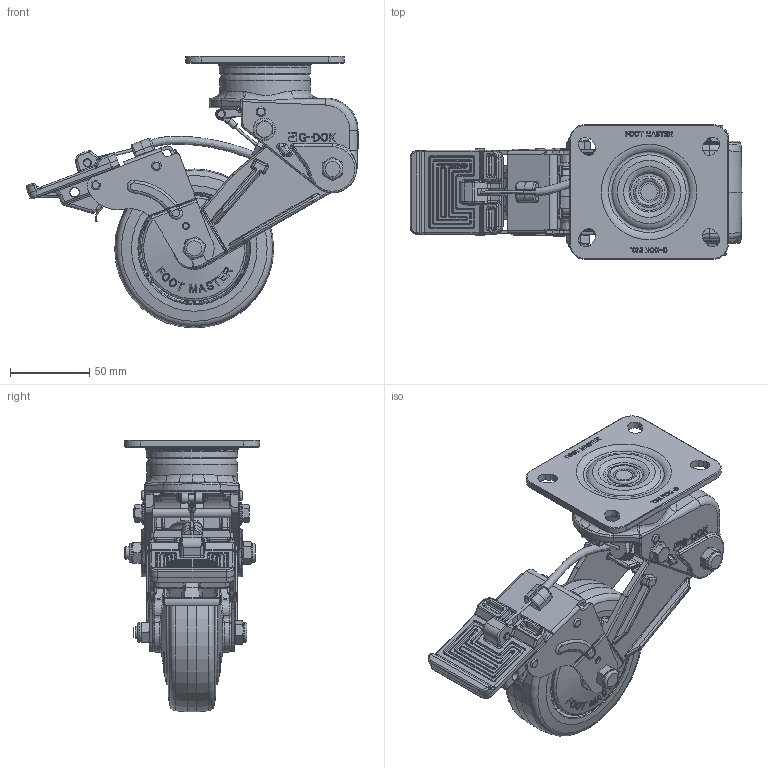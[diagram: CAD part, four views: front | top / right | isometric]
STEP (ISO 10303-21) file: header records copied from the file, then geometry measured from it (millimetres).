
FILE_DESCRIPTION(/* description */ (''),/* implementation_level */ '2;1');
FILE_NAME(/* name */ 'Z:\1.기술연구소\2.연구개발 진행중\25.충격흡수식_BBB\JYH\GDS-100-BB\2020년도\3.도면\1.3D\STEP-FILE\홈페이지용 3D_전달용\GDSB-100-BSF-LUD_PEU.stp',/* time_stamp */ '2021-10-08T20:06:40+09:00',/* author */ ('admin'),/* organization */ (''),/* preprocessor_version */ 'ST-DEVELOPER v18.1',/* originating_system */ 'Autodesk Inventor 2021',/* authorisation */ '');
FILE_SCHEMA (('AUTOMOTIVE_DESIGN { 1 0 10303 214 3 1 1 }'));
Products named in the file (1): GDSB-100-BSF-LUD_PEU
Bounding box: 208.83 x 85 x 171 mm (x, y, z)
Volume: 450056.7 mm3; surface area: 175816.2 mm2
Topology: 1 solids, 2 shells, 4297 faces, 10724 edges, 6492 vertices
Faces by surface type: plane 1445, bspline 1291, cylinder 1041, torus 253, cone 215, sphere 52
Full cylindrical faces by diameter (mm): 2 x2, 2.5 x1, 2.9 x4, 3 x3, 3.1 x4, 3.2 x2, 4 x4, 4.122 x2, 4.2 x7, 4.4 x2, 4.5 x2, 4.8 x2, 5 x4, 5.241 x4, 6 x6, 6.2 x2, 6.723 x1, 7.4 x1, 7.95 x5, 8 x2, 8.2 x2, 9.95 x1, 10.2 x4, 10.7 x2, 11.6 x2, 12.5 x4, 14 x2, 20 x1, 39 x1, 54.301 x2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
Entity records: 167020 total; most frequent: CARTESIAN_POINT 66106, ORIENTED_EDGE 21278, DIRECTION 18671, EDGE_CURVE 10639, AXIS2_PLACEMENT_3D 7120, VERTEX_POINT 6492, EDGE_LOOP 4532, LINE 4431
